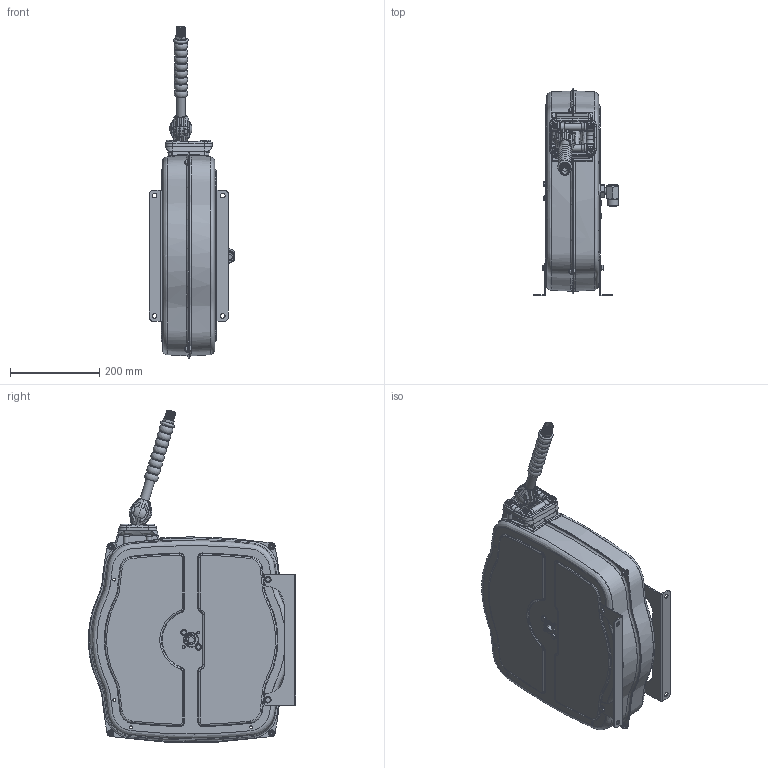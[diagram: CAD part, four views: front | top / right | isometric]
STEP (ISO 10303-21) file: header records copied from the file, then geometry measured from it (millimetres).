
FILE_DESCRIPTION (( 'STEP AP203' ), '1' );
FILE_NAME ('MC.STEP', '2021-10-27T16:17:36', ( '' ), ( '' ), 'SwSTEP 2.0', 'SolidWorks 2018', '' );
FILE_SCHEMA (( 'CONFIG_CONTROL_DESIGN' ));
Products named in the file (1): MC
Bounding box: 192.9 x 466 x 745.13 mm (x, y, z)
Surface area: 1342049.1 mm2 (no closed solid volume)
Topology: 0 solids, 70 shells, 981 faces, 4035 edges, 2978 vertices
Faces by surface type: plane 343, cone 172, cylinder 169, bspline 155, torus 124, sphere 18
Full cylindrical faces by diameter (mm): 6 x4, 6.4 x8, 6.5 x6, 10.5 x4, 11 x6, 12 x4, 12.5 x1, 13.9 x1, 14.95 x1, 15 x5, 20 x2, 20.7 x1, 21 x1, 24.5 x1, 25.5 x8, 32 x1, 34 x1, 413 x2
Entity records: 76376 total; most frequent: CARTESIAN_POINT 47707, ORIENTED_EDGE 6142, DIRECTION 4777, EDGE_CURVE 3824, VERTEX_POINT 2934, AXIS2_PLACEMENT_3D 1984, B_SPLINE_CURVE_WITH_KNOTS 1732, EDGE_LOOP 1265
